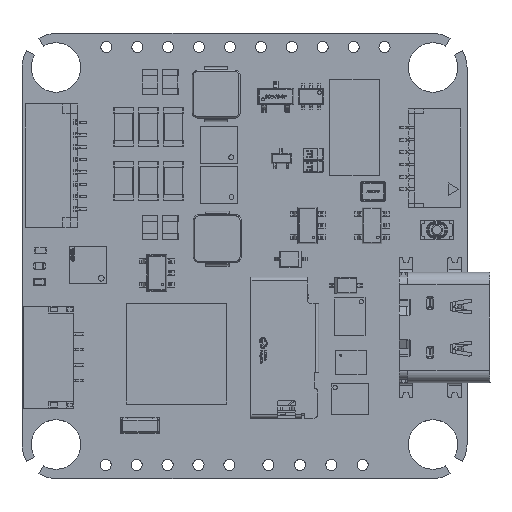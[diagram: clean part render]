
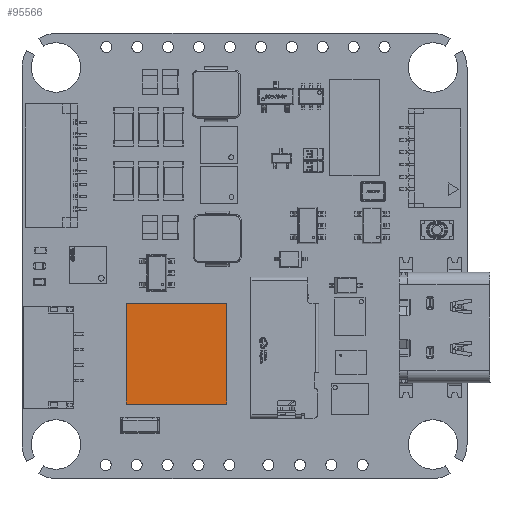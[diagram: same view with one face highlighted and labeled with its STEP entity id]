
A CAD part, top view. The second image highlights one B-rep face of the part: STEP entity #95566.
In plain terms, the highlighted planar face has unit normal (0, 0, 1).
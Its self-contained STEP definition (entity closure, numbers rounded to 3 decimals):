
#20945 = CARTESIAN_POINT ( 'NONE',  ( 16.577, 14.177, 1.092 ) ) ;
#23831 = VECTOR ( 'NONE', #94765, 1000. ) ;
#29866 = ORIENTED_EDGE ( 'NONE', *, *, #88202, .T. ) ;
#37063 = CARTESIAN_POINT ( 'NONE',  ( 8.423, 6.023, 1.092 ) ) ;
#40335 = LINE ( 'NONE', #20945, #23831 ) ;
#40990 = CARTESIAN_POINT ( 'NONE',  ( 8.423, 6.023, 1.092 ) ) ;
#46043 = EDGE_CURVE ( 'NONE', #156713, #227386, #200282, .T. ) ;
#46297 = ORIENTED_EDGE ( 'NONE', *, *, #144639, .T. ) ;
#46818 = ORIENTED_EDGE ( 'NONE', *, *, #46043, .T. ) ;
#48354 = VERTEX_POINT ( 'NONE', #125277 ) ;
#52654 = FACE_OUTER_BOUND ( 'NONE', #90960, .T. ) ;
#57886 = LINE ( 'NONE', #40990, #183063 ) ;
#69598 = PLANE ( 'NONE',  #130605 ) ;
#78530 = CARTESIAN_POINT ( 'NONE',  ( 16.577, 14.177, 1.092 ) ) ;
#87831 = CARTESIAN_POINT ( 'NONE',  ( 16.577, 6.023, 1.092 ) ) ;
#88202 = EDGE_CURVE ( 'NONE', #48354, #208310, #237766, .T. ) ;
#90960 = EDGE_LOOP ( 'NONE', ( #46818, #203228, #29866, #46297 ) ) ;
#93055 = DIRECTION ( 'NONE',  ( 1., 0., 0. ) ) ;
#94765 = DIRECTION ( 'NONE',  ( -1., 0., 0. ) ) ;
#95566 = ADVANCED_FACE ( 'NONE', ( #52654 ), #69598, .T. ) ;
#107247 = DIRECTION ( 'NONE',  ( 0., 1., 0. ) ) ;
#112152 = DIRECTION ( 'NONE',  ( 0., -1., 0. ) ) ;
#125215 = VECTOR ( 'NONE', #112152, 1000. ) ;
#125277 = CARTESIAN_POINT ( 'NONE',  ( 8.423, 14.177, 1.092 ) ) ;
#128789 = DIRECTION ( 'NONE',  ( 0., 0., 1. ) ) ;
#130180 = CARTESIAN_POINT ( 'NONE',  ( 8.423, 14.177, 1.092 ) ) ;
#130605 = AXIS2_PLACEMENT_3D ( 'NONE', #221863, #128789, #179575 ) ;
#144639 = EDGE_CURVE ( 'NONE', #208310, #156713, #57886, .T. ) ;
#156713 = VERTEX_POINT ( 'NONE', #169135 ) ;
#169135 = CARTESIAN_POINT ( 'NONE',  ( 16.577, 6.023, 1.092 ) ) ;
#174284 = VECTOR ( 'NONE', #107247, 1000. ) ;
#179575 = DIRECTION ( 'NONE',  ( 0., 1., 0. ) ) ;
#183063 = VECTOR ( 'NONE', #93055, 1000. ) ;
#200282 = LINE ( 'NONE', #87831, #174284 ) ;
#203228 = ORIENTED_EDGE ( 'NONE', *, *, #223812, .T. ) ;
#208310 = VERTEX_POINT ( 'NONE', #37063 ) ;
#221863 = CARTESIAN_POINT ( 'NONE',  ( 16.577, 6.023, 1.092 ) ) ;
#223812 = EDGE_CURVE ( 'NONE', #227386, #48354, #40335, .T. ) ;
#227386 = VERTEX_POINT ( 'NONE', #78530 ) ;
#237766 = LINE ( 'NONE', #130180, #125215 ) ;
